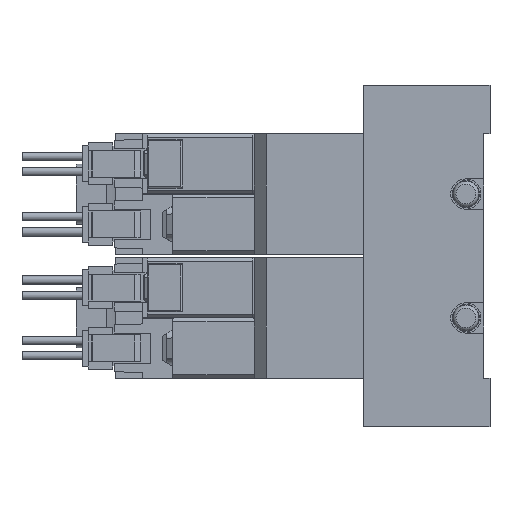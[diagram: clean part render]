
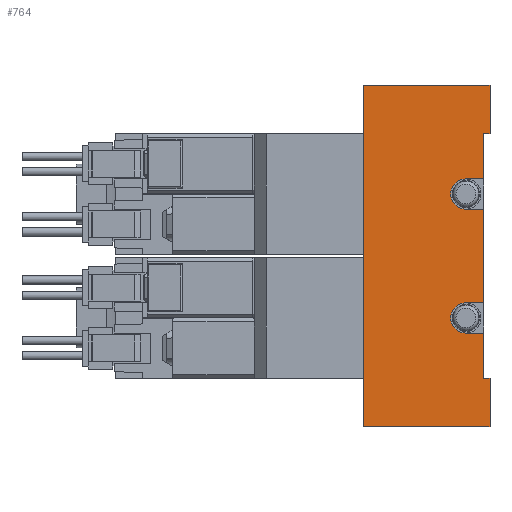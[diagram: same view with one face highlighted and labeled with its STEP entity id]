
A CAD part, left-side view. The second image highlights one B-rep face of the part: STEP entity #764.
In plain terms, the highlighted planar face has unit normal (-1, 0, 0) as drawn and (1, 0, 0) by its records, which use the part's own axes.
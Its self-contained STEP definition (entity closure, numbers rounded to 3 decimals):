
#764=ADVANCED_FACE('',(#1668),#1669,.F.);
#1668=FACE_OUTER_BOUND('',#2601,.T.);
#1669=PLANE('',#2602);
#2601=EDGE_LOOP('',(#5898,#5899,#5900,#5901,#5902,#5903,#5904,#5905,#5906,#5907,#5908,#5909,#5910,#5911,#5912,#5913));
#2602=AXIS2_PLACEMENT_3D('',#5914,#5915,#5916);
#5898=ORIENTED_EDGE('',*,*,#7090,.T.);
#5899=ORIENTED_EDGE('',*,*,#7095,.T.);
#5900=ORIENTED_EDGE('',*,*,#7080,.F.);
#5901=ORIENTED_EDGE('',*,*,#7096,.F.);
#5902=ORIENTED_EDGE('',*,*,#7097,.T.);
#5903=ORIENTED_EDGE('',*,*,#7098,.T.);
#5904=ORIENTED_EDGE('',*,*,#7099,.T.);
#5905=ORIENTED_EDGE('',*,*,#7084,.F.);
#5906=ORIENTED_EDGE('',*,*,#7018,.F.);
#5907=ORIENTED_EDGE('',*,*,#7100,.F.);
#5908=ORIENTED_EDGE('',*,*,#7101,.T.);
#5909=ORIENTED_EDGE('',*,*,#7067,.F.);
#5910=ORIENTED_EDGE('',*,*,#7102,.F.);
#5911=ORIENTED_EDGE('',*,*,#7054,.F.);
#5912=ORIENTED_EDGE('',*,*,#7103,.T.);
#5913=ORIENTED_EDGE('',*,*,#7050,.T.);
#5914=CARTESIAN_POINT('',(17.5,1.0,28.25));
#5915=DIRECTION('',(-1.0,0.0,0.0));
#5916=DIRECTION('',(0.0,0.0,1.0));
#7018=EDGE_CURVE('',#8741,#8743,#8744,.T.);
#7050=EDGE_CURVE('',#8794,#8800,#8802,.T.);
#7054=EDGE_CURVE('',#8808,#8809,#8810,.T.);
#7067=EDGE_CURVE('',#8832,#8833,#8834,.T.);
#7080=EDGE_CURVE('',#8852,#8850,#8854,.T.);
#7084=EDGE_CURVE('',#8743,#8860,#8861,.T.);
#7090=EDGE_CURVE('',#8800,#8870,#8871,.T.);
#7095=EDGE_CURVE('',#8870,#8850,#8879,.T.);
#7096=EDGE_CURVE('',#8880,#8852,#8881,.T.);
#7097=EDGE_CURVE('',#8880,#8882,#8883,.T.);
#7098=EDGE_CURVE('',#8882,#8884,#8885,.T.);
#7099=EDGE_CURVE('',#8884,#8860,#8886,.T.);
#7100=EDGE_CURVE('',#8887,#8741,#8888,.T.);
#7101=EDGE_CURVE('',#8887,#8833,#8889,.T.);
#7102=EDGE_CURVE('',#8809,#8832,#8890,.T.);
#7103=EDGE_CURVE('',#8808,#8794,#8891,.T.);
#8741=VERTEX_POINT('',#11577);
#8743=VERTEX_POINT('',#11580);
#8744=CIRCLE('',#11581,2.5);
#8794=VERTEX_POINT('',#11686);
#8800=VERTEX_POINT('',#11695);
#8802=LINE('',#11698,#11699);
#8808=VERTEX_POINT('',#11708);
#8809=VERTEX_POINT('',#11709);
#8810=LINE('',#11710,#11711);
#8832=VERTEX_POINT('',#11737);
#8833=VERTEX_POINT('',#11738);
#8834=LINE('',#11739,#11740);
#8850=VERTEX_POINT('',#11763);
#8852=VERTEX_POINT('',#11766);
#8854=LINE('',#11769,#11770);
#8860=VERTEX_POINT('',#11779);
#8861=LINE('',#11780,#11781);
#8870=VERTEX_POINT('',#11793);
#8871=LINE('',#11794,#11795);
#8879=LINE('',#11805,#11806);
#8880=VERTEX_POINT('',#11807);
#8881=LINE('',#11808,#11809);
#8882=VERTEX_POINT('',#11810);
#8883=LINE('',#11811,#11812);
#8884=VERTEX_POINT('',#11813);
#8885=LINE('',#11814,#11815);
#8886=LINE('',#11816,#11817);
#8887=VERTEX_POINT('',#11818);
#8888=LINE('',#11819,#11820);
#8889=LINE('',#11821,#11822);
#8890=CIRCLE('',#11823,2.5);
#8891=LINE('',#11824,#11825);
#11577=CARTESIAN_POINT('',(17.5,4.0,7.75));
#11580=CARTESIAN_POINT('',(17.5,4.0,12.75));
#11581=AXIS2_PLACEMENT_3D('',#13033,#13034,#13035);
#11686=CARTESIAN_POINT('',(17.5,1.0,-20.25));
#11695=CARTESIAN_POINT('',(17.5,0.0,-20.25));
#11698=CARTESIAN_POINT('',(17.5,4.0,-20.25));
#11699=VECTOR('',#13093,1.0);
#11708=CARTESIAN_POINT('',(17.5,1.0,-12.75));
#11709=CARTESIAN_POINT('',(17.5,4.0,-12.75));
#11710=CARTESIAN_POINT('',(17.5,1.0,-12.75));
#11711=VECTOR('',#13097,1.0);
#11737=CARTESIAN_POINT('',(17.5,4.0,-7.75));
#11738=CARTESIAN_POINT('',(17.5,1.0,-7.75));
#11739=CARTESIAN_POINT('',(17.5,1.0,-7.75));
#11740=VECTOR('',#13123,1.0);
#11763=CARTESIAN_POINT('',(17.5,21.0,-28.25));
#11766=CARTESIAN_POINT('',(17.5,21.0,28.25));
#11769=CARTESIAN_POINT('',(17.5,21.0,28.25));
#11770=VECTOR('',#13142,1.0);
#11779=CARTESIAN_POINT('',(17.5,1.0,12.75));
#11780=CARTESIAN_POINT('',(17.5,1.0,12.75));
#11781=VECTOR('',#13146,1.0);
#11793=CARTESIAN_POINT('',(17.5,0.0,-28.25));
#11794=CARTESIAN_POINT('',(17.5,0.0,-20.25));
#11795=VECTOR('',#13156,1.0);
#11805=CARTESIAN_POINT('',(17.5,1.0,-28.25));
#11806=VECTOR('',#13165,1.0);
#11807=CARTESIAN_POINT('',(17.5,0.0,28.25));
#11808=CARTESIAN_POINT('',(17.5,1.0,28.25));
#11809=VECTOR('',#13166,1.0);
#11810=CARTESIAN_POINT('',(17.5,0.0,20.25));
#11811=CARTESIAN_POINT('',(17.5,0.0,28.25));
#11812=VECTOR('',#13167,1.0);
#11813=CARTESIAN_POINT('',(17.5,1.0,20.25));
#11814=CARTESIAN_POINT('',(17.5,0.0,20.25));
#11815=VECTOR('',#13168,1.0);
#11816=CARTESIAN_POINT('',(17.5,1.0,28.25));
#11817=VECTOR('',#13169,1.0);
#11818=CARTESIAN_POINT('',(17.5,1.0,7.75));
#11819=CARTESIAN_POINT('',(17.5,1.0,7.75));
#11820=VECTOR('',#13170,1.0);
#11821=CARTESIAN_POINT('',(17.5,1.0,28.25));
#11822=VECTOR('',#13171,1.0);
#11823=AXIS2_PLACEMENT_3D('',#13172,#13173,#13174);
#11824=CARTESIAN_POINT('',(17.5,1.0,28.25));
#11825=VECTOR('',#13175,1.0);
#13033=CARTESIAN_POINT('',(17.5,4.0,10.25));
#13034=DIRECTION('',(1.0,0.0,-0.0));
#13035=DIRECTION('',(0.0,0.0,1.0));
#13093=DIRECTION('',(0.0,-1.0,0.0));
#13097=DIRECTION('',(0.0,1.0,0.0));
#13123=DIRECTION('',(0.0,-1.0,0.0));
#13142=DIRECTION('',(0.0,0.0,-1.0));
#13146=DIRECTION('',(0.0,-1.0,0.0));
#13156=DIRECTION('',(0.0,0.0,-1.0));
#13165=DIRECTION('',(0.0,1.0,0.0));
#13166=DIRECTION('',(0.0,1.0,0.0));
#13167=DIRECTION('',(0.0,0.0,-1.0));
#13168=DIRECTION('',(0.0,1.0,0.0));
#13169=DIRECTION('',(0.0,0.0,-1.0));
#13170=DIRECTION('',(0.0,1.0,0.0));
#13171=DIRECTION('',(0.0,0.0,-1.0));
#13172=CARTESIAN_POINT('',(17.5,4.0,-10.25));
#13173=DIRECTION('',(1.0,0.0,-0.0));
#13174=DIRECTION('',(0.0,0.0,1.0));
#13175=DIRECTION('',(0.0,0.0,-1.0));
